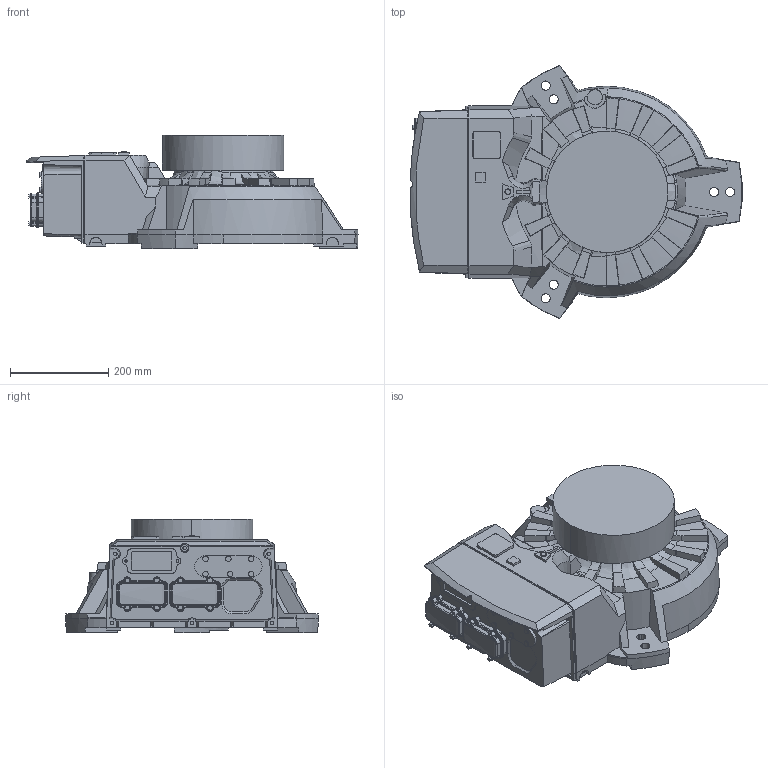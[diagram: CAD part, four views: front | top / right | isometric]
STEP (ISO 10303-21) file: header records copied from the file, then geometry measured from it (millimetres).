
FILE_DESCRIPTION (( 'STEP AP214' ), '1' );
FILE_NAME ('IRB2600_12-165_BASE_CAD_rev02.STEP', '2016-12-02T10:33:44', ( 'ABB' ), ( 'ABB' ), 'SwSTEP 2.0', 'SolidWorks 2014', '' );
FILE_SCHEMA (( 'AUTOMOTIVE_DESIGN' ));
Length unit declared in the file: millimetre
Products named in the file (1): IRB2600_12-165_BASE_CAD_rev02
Bounding box: 675.23 x 514.54 x 230 mm (x, y, z)
Volume: 31908814.3 mm3; surface area: 938274.4 mm2
Topology: 1 solids, 1 shells, 999 faces, 2689 edges, 1731 vertices
Faces by surface type: plane 396, cone 228, bspline 214, cylinder 161
Entity records: 44566 total; most frequent: CARTESIAN_POINT 21686, ORIENTED_EDGE 5370, DIRECTION 3992, EDGE_CURVE 2685, VERTEX_POINT 1731, AXIS2_PLACEMENT_3D 1445, LINE 1102, VECTOR 1102
